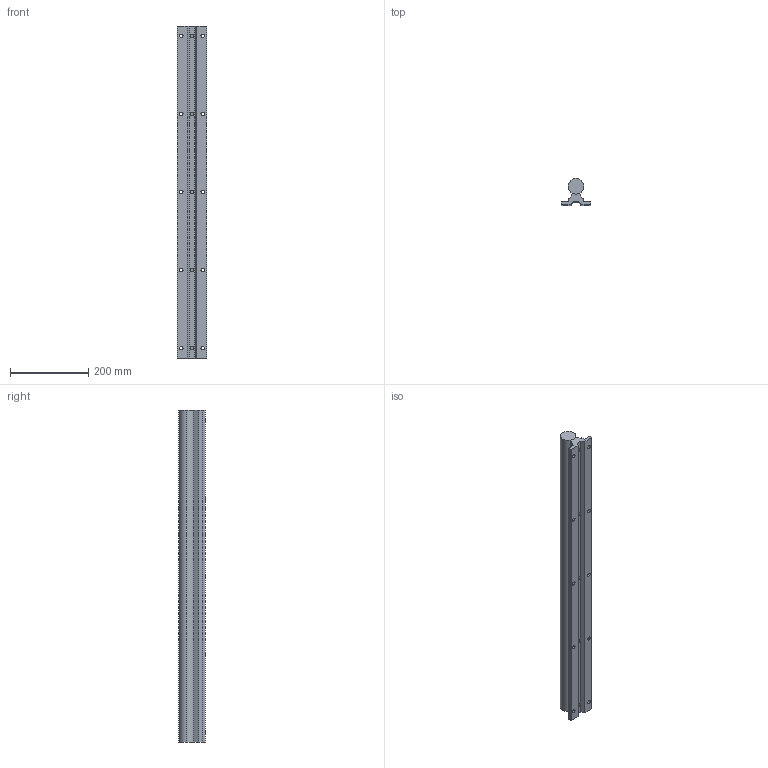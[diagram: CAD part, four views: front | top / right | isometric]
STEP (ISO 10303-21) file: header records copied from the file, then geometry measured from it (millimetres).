
FILE_DESCRIPTION (( 'STEP AP214' ), '1' );
FILE_NAME ('SBR40-850.STEP', '2025-09-17T14:42:39', ( '' ), ( '' ), 'SwSTEP 2.0', 'SolidWorks 2019', '' );
FILE_SCHEMA (( 'AUTOMOTIVE_DESIGN' ));
Length unit declared in the file: millimetre
Products named in the file (1): SBR40-850
Bounding box: 75 x 68 x 850 mm (x, y, z)
Volume: 1970675.8 mm3; surface area: 292328.7 mm2
Topology: 2 solids, 2 shells, 80 faces, 218 edges, 142 vertices
Faces by surface type: cylinder 54, plane 26
Entity records: 2963 total; most frequent: CARTESIAN_POINT 801, DIRECTION 448, ORIENTED_EDGE 436, EDGE_CURVE 218, AXIS2_PLACEMENT_3D 169, VERTEX_POINT 142, LINE 110, VECTOR 110
